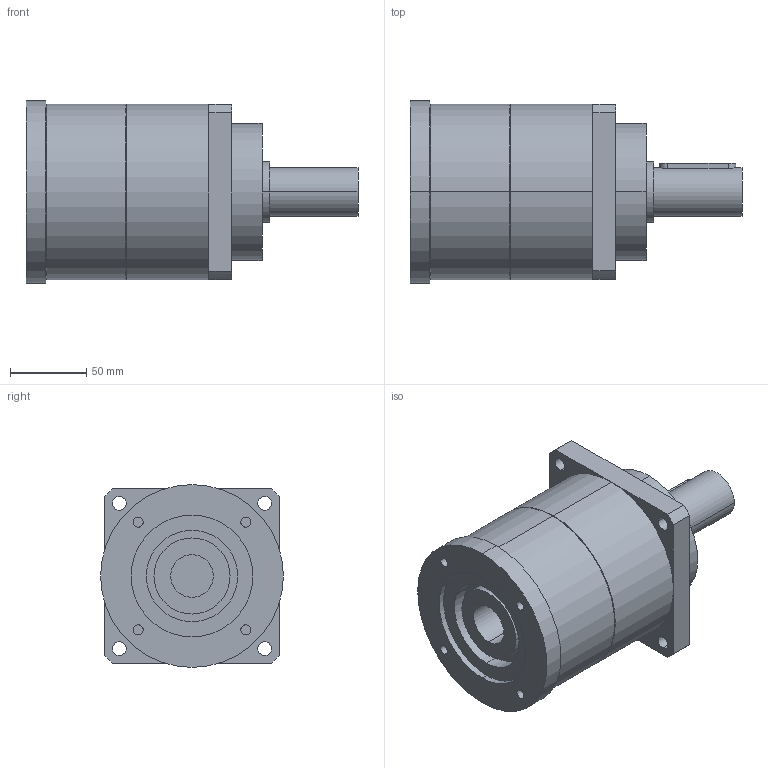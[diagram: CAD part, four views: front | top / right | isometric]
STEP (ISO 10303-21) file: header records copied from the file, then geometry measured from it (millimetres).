
FILE_DESCRIPTION(('CoCreate Modeling STEP Export'),'2;1');
FILE_NAME('GPT120_ig-3-4-5-7-10_32_B5A_28_P05.stp','2015-02-04T17:00:32',(''),(''),'CoCreate Modeling STEP processor for AP214 (Solid Model)','CoCreate Modeling 16.00C 25-Feb-2009 (C) Parametric Technology GmbH','');
FILE_SCHEMA(('AUTOMOTIVE_DESIGN { 1 0 10303 214 1 1 1 1 }'));
Length unit declared in the file: millimetre
Products named in the file (2): GPT120_ig-3-4-5-7-10_32_B5A_28_P05
Assembly tree (1 placements, depth 2):
  GPT120_ig-3-4-5-7-10_32_B5A_28_P05
    GPT120_ig-3-4-5-7-10_32_B5A_28_P05
Bounding box: 218 x 120 x 120 mm (x, y, z)
Volume: 1562992.8 mm3; surface area: 103346.5 mm2
Topology: 1 solids, 1 shells, 75 faces, 188 edges, 129 vertices
Faces by surface type: cylinder 44, plane 27, cone 4
Entity records: 2365 total; most frequent: CARTESIAN_POINT 722, ORIENTED_EDGE 376, DIRECTION 280, EDGE_CURVE 188, VERTEX_POINT 129, AXIS2_PLACEMENT_3D 105, EDGE_LOOP 97, FACE_OUTER_BOUND 75
